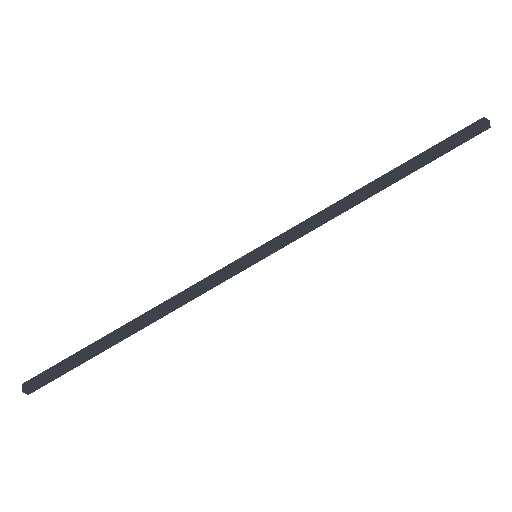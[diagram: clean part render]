
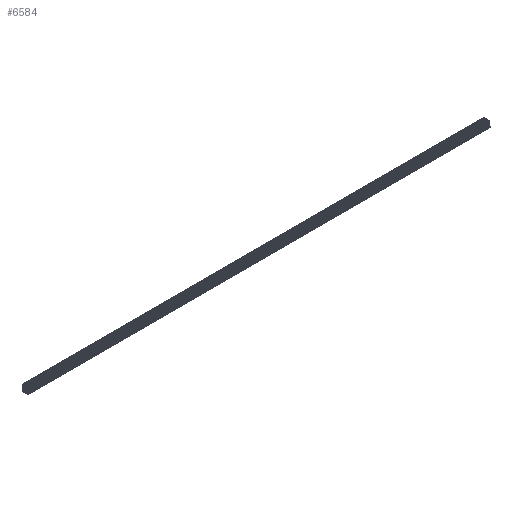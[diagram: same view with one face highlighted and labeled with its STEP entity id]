
A CAD part, isometric view. The second image highlights one B-rep face of the part: STEP entity #6584.
In plain terms, the highlighted planar face has unit normal (0, 0, 1).
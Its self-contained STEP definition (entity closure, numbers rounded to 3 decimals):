
#44 = EDGE_CURVE ( 'NONE', #10381, #3901, #8618, .T. ) ;
#46 = CARTESIAN_POINT ( 'NONE',  ( 6000., -36., 40. ) ) ;
#749 = VERTEX_POINT ( 'NONE', #6713 ) ;
#838 = PLANE ( 'NONE',  #8289 ) ;
#875 = LINE ( 'NONE', #4360, #11142 ) ;
#1242 = LINE ( 'NONE', #5590, #2365 ) ;
#1512 = ORIENTED_EDGE ( 'NONE', *, *, #3616, .F. ) ;
#2339 = CARTESIAN_POINT ( 'NONE',  ( 0., -36., 40. ) ) ;
#2365 = VECTOR ( 'NONE', #11189, 1000. ) ;
#2778 = DIRECTION ( 'NONE',  ( -1., 0., 0. ) ) ;
#2984 = EDGE_CURVE ( 'NONE', #3901, #8892, #1242, .T. ) ;
#3616 = EDGE_CURVE ( 'NONE', #10381, #749, #875, .T. ) ;
#3631 = DIRECTION ( 'NONE',  ( 0., 0., -1. ) ) ;
#3901 = VERTEX_POINT ( 'NONE', #5895 ) ;
#4055 = CARTESIAN_POINT ( 'NONE',  ( 6000., 36., 40. ) ) ;
#4277 = CARTESIAN_POINT ( 'NONE',  ( 6000., 36., 40. ) ) ;
#4336 = LINE ( 'NONE', #46, #11169 ) ;
#4360 = CARTESIAN_POINT ( 'NONE',  ( 6000., 36., 40. ) ) ;
#4375 = EDGE_CURVE ( 'NONE', #749, #8892, #4336, .T. ) ;
#5590 = CARTESIAN_POINT ( 'NONE',  ( 0., 36., 40. ) ) ;
#5895 = CARTESIAN_POINT ( 'NONE',  ( 0., 36., 40. ) ) ;
#6137 = DIRECTION ( 'NONE',  ( 0., -1., 0. ) ) ;
#6182 = EDGE_LOOP ( 'NONE', ( #10132, #9833, #1512, #10566 ) ) ;
#6584 = ADVANCED_FACE ( 'NONE', ( #10612 ), #838, .F. ) ;
#6713 = CARTESIAN_POINT ( 'NONE',  ( 6000., -36., 40. ) ) ;
#7821 = DIRECTION ( 'NONE',  ( -1., 0., 0. ) ) ;
#8289 = AXIS2_PLACEMENT_3D ( 'NONE', #8725, #3631, #2778 ) ;
#8618 = LINE ( 'NONE', #4277, #10943 ) ;
#8725 = CARTESIAN_POINT ( 'NONE',  ( 6000., 36., 40. ) ) ;
#8892 = VERTEX_POINT ( 'NONE', #2339 ) ;
#9833 = ORIENTED_EDGE ( 'NONE', *, *, #4375, .F. ) ;
#10132 = ORIENTED_EDGE ( 'NONE', *, *, #2984, .T. ) ;
#10336 = DIRECTION ( 'NONE',  ( -1., 0., 0. ) ) ;
#10381 = VERTEX_POINT ( 'NONE', #4055 ) ;
#10566 = ORIENTED_EDGE ( 'NONE', *, *, #44, .T. ) ;
#10612 = FACE_OUTER_BOUND ( 'NONE', #6182, .T. ) ;
#10943 = VECTOR ( 'NONE', #7821, 1000. ) ;
#11142 = VECTOR ( 'NONE', #6137, 1000. ) ;
#11169 = VECTOR ( 'NONE', #10336, 1000. ) ;
#11189 = DIRECTION ( 'NONE',  ( 0., -1., 0. ) ) ;
